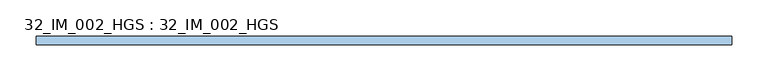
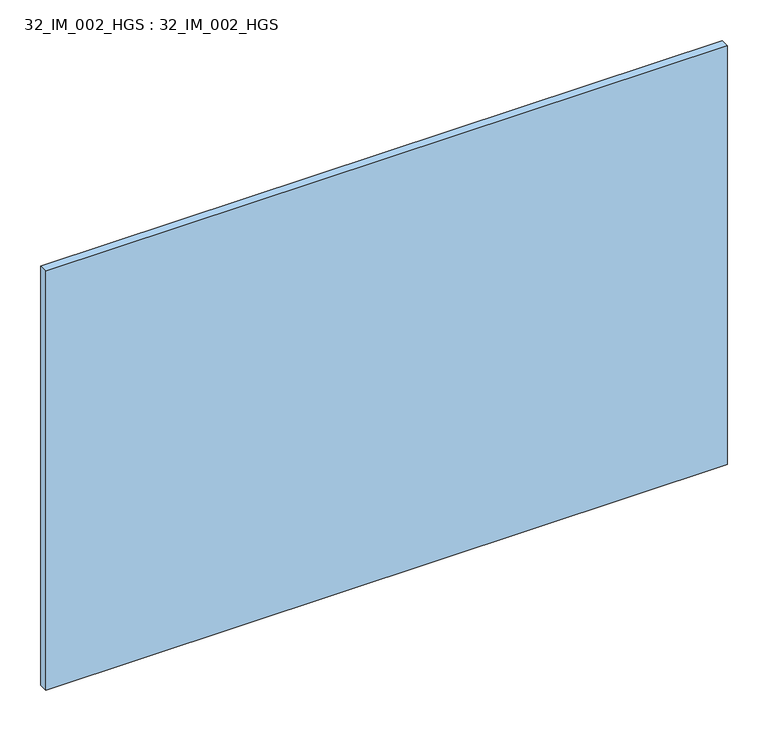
"""IFC4 building model written with IfcOpenShell, lengths in millimetres: window geometry, 32_IM_002_HGS : 32_IM_002_HGS."""

from ifc_helpers import new_model, si_unit, origin, origin_with_axes, place, context, project, spatial, polyline, outline, extrude, source, transform, mapped, element, save


def window_32_im_002_hgs_32_im_002_hgs_65bd3827(model_context):
    return source(origin(), model_context, "Body", "SweptSolid", [
        extrude(outline(polyline([(482.0, -6.0), (-482.0, -6.0), (-482.0, 6.0), (482.0, 6.0), (482.0, -6.0)])), origin_with_axes(), (0.0, 0.0, 1.0), 627.0),
    ])


if __name__ == "__main__":
    model = new_model("IFC4")
    model_context = context("Model", 3, world=origin())
    ifc_project = project(units=[si_unit("LENGTHUNIT", "METRE", prefix="MILLI")], contexts=[model_context])
    site = spatial("IfcSite", under=ifc_project)
    building = spatial("IfcBuilding", under=site)
    placement = place(None, origin())
    window_32_im_002_hgs_32_im_002_hgs_shape = window_32_im_002_hgs_32_im_002_hgs_65bd3827(model_context)
    element("IfcWindow", 1, ObjectType="32_IM_002_HGS : 32_IM_002_HGS", at=placement, inside=building, context=model_context, shape_type="MappedRepresentation", body=[
        mapped(window_32_im_002_hgs_32_im_002_hgs_shape, transform((0.0, 0.0, 0.0), x_axis=(1.0, 0.0, 0.0), y_axis=(0.0, 1.0, 0.0), z_axis=(0.0, 0.0, 1.0))),
    ])
    save(model, "model.ifc")
